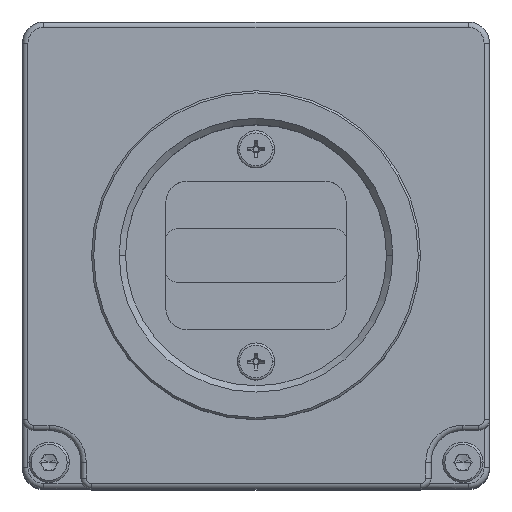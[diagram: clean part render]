
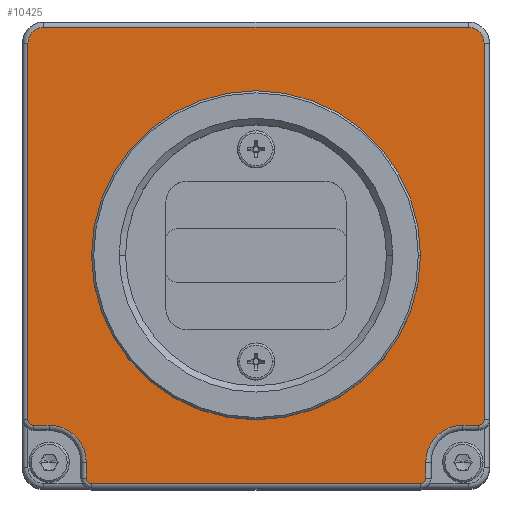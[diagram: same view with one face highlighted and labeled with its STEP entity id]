
A CAD part, top view. The second image highlights one B-rep face of the part: STEP entity #10425.
In plain terms, the highlighted planar face has unit normal (0, 0, 1).
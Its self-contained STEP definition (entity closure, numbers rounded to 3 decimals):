
#97=DIRECTION('',(1.,0.,0.));
#98=VECTOR('',#97,31.);
#99=CARTESIAN_POINT('',(-15.5,-21.5,64.));
#100=LINE('',#99,#98);
#105=CARTESIAN_POINT('',(-20.,20.,64.));
#106=DIRECTION('',(0.,0.,1.));
#107=DIRECTION('',(0.,1.,0.));
#108=AXIS2_PLACEMENT_3D('',#105,#106,#107);
#110=CARTESIAN_POINT('',(20.,20.,64.));
#111=DIRECTION('',(0.,0.,1.));
#112=DIRECTION('',(1.,0.,0.));
#113=AXIS2_PLACEMENT_3D('',#110,#111,#112);
#115=CARTESIAN_POINT('',(21.,-15.5,64.));
#116=DIRECTION('',(0.,0.,1.));
#117=DIRECTION('',(0.,-1.,0.));
#118=AXIS2_PLACEMENT_3D('',#115,#116,#117);
#120=CARTESIAN_POINT('',(19.5,-19.5,64.));
#121=DIRECTION('',(0.,0.,-1.));
#122=DIRECTION('',(-1.,0.,0.));
#123=AXIS2_PLACEMENT_3D('',#120,#121,#122);
#125=CARTESIAN_POINT('',(15.5,-21.,64.));
#126=DIRECTION('',(0.,0.,1.));
#127=DIRECTION('',(0.,-1.,0.));
#128=AXIS2_PLACEMENT_3D('',#125,#126,#127);
#130=CARTESIAN_POINT('',(-15.5,-21.,64.));
#131=DIRECTION('',(0.,0.,1.));
#132=DIRECTION('',(-1.,0.,0.));
#133=AXIS2_PLACEMENT_3D('',#130,#131,#132);
#135=CARTESIAN_POINT('',(-19.5,-19.5,64.));
#136=DIRECTION('',(0.,0.,-1.));
#137=DIRECTION('',(0.,1.,0.));
#138=AXIS2_PLACEMENT_3D('',#135,#136,#137);
#140=CARTESIAN_POINT('',(-21.,-15.5,64.));
#141=DIRECTION('',(0.,0.,1.));
#142=DIRECTION('',(-1.,0.,0.));
#143=AXIS2_PLACEMENT_3D('',#140,#141,#142);
#145=CARTESIAN_POINT('',(0.,0.,64.));
#146=DIRECTION('',(0.,0.,-1.));
#147=DIRECTION('',(-1.,0.,0.));
#148=AXIS2_PLACEMENT_3D('',#145,#146,#147);
#150=CARTESIAN_POINT('',(0.,0.,64.));
#151=DIRECTION('',(0.,0.,-1.));
#152=DIRECTION('',(1.,0.,0.));
#153=AXIS2_PLACEMENT_3D('',#150,#151,#152);
#170=DIRECTION('',(0.,-1.,0.));
#171=VECTOR('',#170,35.5);
#172=CARTESIAN_POINT('',(-21.5,20.,64.));
#173=LINE('',#172,#171);
#193=DIRECTION('',(1.,0.,0.));
#194=VECTOR('',#193,1.5);
#195=CARTESIAN_POINT('',(-21.,-16.,64.));
#196=LINE('',#195,#194);
#216=DIRECTION('',(0.,-1.,0.));
#217=VECTOR('',#216,1.5);
#218=CARTESIAN_POINT('',(-16.,-19.5,64.));
#219=LINE('',#218,#217);
#423=DIRECTION('',(-1.,0.,0.));
#424=VECTOR('',#423,40.);
#425=CARTESIAN_POINT('',(20.,21.5,64.));
#426=LINE('',#425,#424);
#551=DIRECTION('',(0.,1.,0.));
#552=VECTOR('',#551,35.5);
#553=CARTESIAN_POINT('',(21.5,-15.5,64.));
#554=LINE('',#553,#552);
#631=DIRECTION('',(1.,0.,0.));
#632=VECTOR('',#631,1.5);
#633=CARTESIAN_POINT('',(19.5,-16.,64.));
#634=LINE('',#633,#632);
#681=DIRECTION('',(0.,1.,0.));
#682=VECTOR('',#681,1.5);
#683=CARTESIAN_POINT('',(16.,-21.,64.));
#684=LINE('',#683,#682);
#9820=CARTESIAN_POINT('',(21.5,20.,64.));
#9821=CARTESIAN_POINT('',(20.,21.5,64.));
#9822=VERTEX_POINT('',#9820);
#9823=VERTEX_POINT('',#9821);
#9824=CARTESIAN_POINT('',(-20.,21.5,64.));
#9825=CARTESIAN_POINT('',(-21.5,20.,64.));
#9826=VERTEX_POINT('',#9824);
#9827=VERTEX_POINT('',#9825);
#9828=CARTESIAN_POINT('',(21.5,-15.5,64.));
#9829=VERTEX_POINT('',#9828);
#9830=CARTESIAN_POINT('',(21.,-16.,64.));
#9831=VERTEX_POINT('',#9830);
#9832=CARTESIAN_POINT('',(19.5,-16.,64.));
#9833=VERTEX_POINT('',#9832);
#9834=CARTESIAN_POINT('',(16.,-19.5,64.));
#9835=VERTEX_POINT('',#9834);
#9836=CARTESIAN_POINT('',(16.,-21.,64.));
#9837=VERTEX_POINT('',#9836);
#9838=CARTESIAN_POINT('',(15.5,-21.5,64.));
#9839=VERTEX_POINT('',#9838);
#9840=CARTESIAN_POINT('',(-15.5,-21.5,64.));
#9841=VERTEX_POINT('',#9840);
#9842=CARTESIAN_POINT('',(-16.,-21.,64.));
#9843=VERTEX_POINT('',#9842);
#9844=CARTESIAN_POINT('',(-16.,-19.5,64.));
#9845=VERTEX_POINT('',#9844);
#9846=CARTESIAN_POINT('',(-19.5,-16.,64.));
#9847=VERTEX_POINT('',#9846);
#9848=CARTESIAN_POINT('',(-21.,-16.,64.));
#9849=VERTEX_POINT('',#9848);
#9850=CARTESIAN_POINT('',(-21.5,-15.5,64.));
#9851=VERTEX_POINT('',#9850);
#9852=CARTESIAN_POINT('',(-15.5,0.,64.));
#9853=CARTESIAN_POINT('',(15.5,0.,64.));
#9854=VERTEX_POINT('',#9852);
#9855=VERTEX_POINT('',#9853);
#10381=CARTESIAN_POINT('',(0.,0.,64.));
#10382=DIRECTION('',(0.,0.,1.));
#10383=DIRECTION('',(1.,0.,0.));
#10384=AXIS2_PLACEMENT_3D('',#10381,#10382,#10383);
#10385=PLANE('',#10384);
#10387=ORIENTED_EDGE('',*,*,#10386,.F.);
#10389=ORIENTED_EDGE('',*,*,#10388,.F.);
#10391=ORIENTED_EDGE('',*,*,#10390,.F.);
#10393=ORIENTED_EDGE('',*,*,#10392,.F.);
#10395=ORIENTED_EDGE('',*,*,#10394,.F.);
#10397=ORIENTED_EDGE('',*,*,#10396,.F.);
#10399=ORIENTED_EDGE('',*,*,#10398,.F.);
#10401=ORIENTED_EDGE('',*,*,#10400,.F.);
#10403=ORIENTED_EDGE('',*,*,#10402,.F.);
#10404=ORIENTED_EDGE('',*,*,#10364,.F.);
#10406=ORIENTED_EDGE('',*,*,#10405,.F.);
#10408=ORIENTED_EDGE('',*,*,#10407,.F.);
#10410=ORIENTED_EDGE('',*,*,#10409,.F.);
#10412=ORIENTED_EDGE('',*,*,#10411,.F.);
#10414=ORIENTED_EDGE('',*,*,#10413,.F.);
#10416=ORIENTED_EDGE('',*,*,#10415,.F.);
#10417=EDGE_LOOP('',(#10387,#10389,#10391,#10393,#10395,#10397,#10399,#10401,
#10403,#10404,#10406,#10408,#10410,#10412,#10414,#10416));
#10418=FACE_OUTER_BOUND('',#10417,.F.);
#10420=ORIENTED_EDGE('',*,*,#10419,.F.);
#10422=ORIENTED_EDGE('',*,*,#10421,.F.);
#10423=EDGE_LOOP('',(#10420,#10422));
#10424=FACE_BOUND('',#10423,.F.);
#109=CIRCLE('',#108,1.5);
#114=CIRCLE('',#113,1.5);
#119=CIRCLE('',#118,0.5);
#124=CIRCLE('',#123,3.5);
#129=CIRCLE('',#128,0.5);
#134=CIRCLE('',#133,0.5);
#139=CIRCLE('',#138,3.5);
#144=CIRCLE('',#143,0.5);
#149=CIRCLE('',#148,15.5);
#154=CIRCLE('',#153,15.5);
#10364=EDGE_CURVE('',#9841,#9839,#100,.T.);
#10386=EDGE_CURVE('',#9826,#9827,#109,.T.);
#10388=EDGE_CURVE('',#9823,#9826,#426,.T.);
#10390=EDGE_CURVE('',#9822,#9823,#114,.T.);
#10392=EDGE_CURVE('',#9829,#9822,#554,.T.);
#10394=EDGE_CURVE('',#9831,#9829,#119,.T.);
#10396=EDGE_CURVE('',#9833,#9831,#634,.T.);
#10398=EDGE_CURVE('',#9835,#9833,#124,.T.);
#10400=EDGE_CURVE('',#9837,#9835,#684,.T.);
#10402=EDGE_CURVE('',#9839,#9837,#129,.T.);
#10405=EDGE_CURVE('',#9843,#9841,#134,.T.);
#10407=EDGE_CURVE('',#9845,#9843,#219,.T.);
#10409=EDGE_CURVE('',#9847,#9845,#139,.T.);
#10411=EDGE_CURVE('',#9849,#9847,#196,.T.);
#10413=EDGE_CURVE('',#9851,#9849,#144,.T.);
#10415=EDGE_CURVE('',#9827,#9851,#173,.T.);
#10419=EDGE_CURVE('',#9854,#9855,#149,.T.);
#10421=EDGE_CURVE('',#9855,#9854,#154,.T.);
#10425=ADVANCED_FACE('',(#10418,#10424),#10385,.T.);
